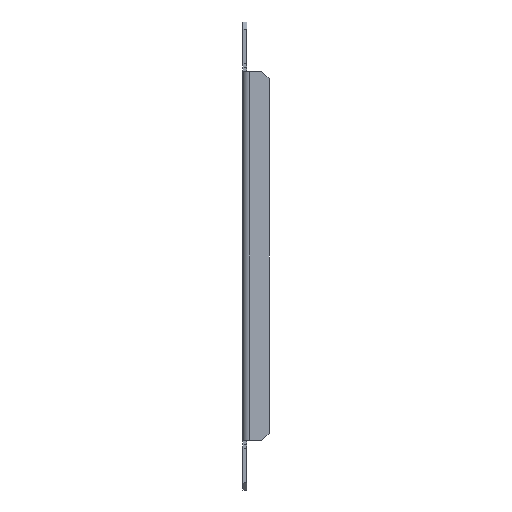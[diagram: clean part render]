
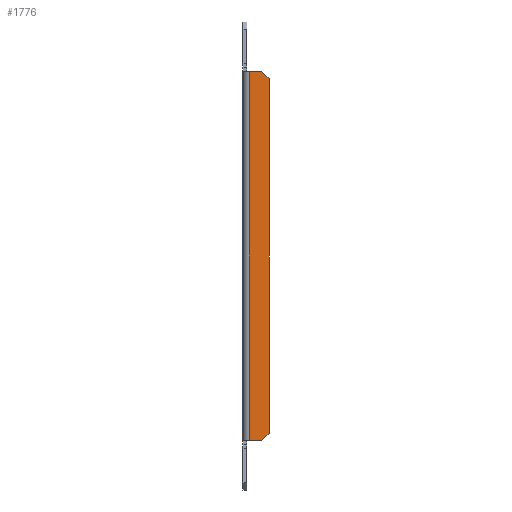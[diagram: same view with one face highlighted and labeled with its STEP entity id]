
A CAD part, left-side view. The second image highlights one B-rep face of the part: STEP entity #1776.
In plain terms, the highlighted planar face has unit normal (-1, 0, 0).
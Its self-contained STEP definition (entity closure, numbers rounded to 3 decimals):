
#7 = CARTESIAN_POINT ( 'NONE',  ( -12.5, -3.5, 102.5 ) ) ;
#111 = VECTOR ( 'NONE', #1554, 1000. ) ;
#148 = CARTESIAN_POINT ( 'NONE',  ( -12.5, -10.5, -102.5 ) ) ;
#162 = VECTOR ( 'NONE', #651, 1000. ) ;
#209 = VECTOR ( 'NONE', #228, 1000. ) ;
#228 = DIRECTION ( 'NONE',  ( 0., 0.707, 0.707 ) ) ;
#306 = VERTEX_POINT ( 'NONE', #148 ) ;
#350 = DIRECTION ( 'NONE',  ( 0., -1., 0. ) ) ;
#386 = EDGE_CURVE ( 'NONE', #1047, #2493, #2225, .T. ) ;
#414 = ORIENTED_EDGE ( 'NONE', *, *, #2266, .F. ) ;
#547 = VECTOR ( 'NONE', #1067, 1000. ) ;
#651 = DIRECTION ( 'NONE',  ( 0., -0.707, 0.707 ) ) ;
#659 = LINE ( 'NONE', #695, #1931 ) ;
#672 = CARTESIAN_POINT ( 'NONE',  ( -12.5, -10.5, 102.5 ) ) ;
#695 = CARTESIAN_POINT ( 'NONE',  ( -12.5, -14.5, -102.5 ) ) ;
#712 = PLANE ( 'NONE',  #1039 ) ;
#729 = CARTESIAN_POINT ( 'NONE',  ( -12.5, -3.5, 102.5 ) ) ;
#750 = ORIENTED_EDGE ( 'NONE', *, *, #1881, .F. ) ;
#796 = FACE_OUTER_BOUND ( 'NONE', #876, .T. ) ;
#824 = CARTESIAN_POINT ( 'NONE',  ( -12.5, -115., 2. ) ) ;
#843 = EDGE_CURVE ( 'NONE', #2131, #975, #2358, .T. ) ;
#847 = VECTOR ( 'NONE', #957, 1000. ) ;
#870 = ORIENTED_EDGE ( 'NONE', *, *, #843, .T. ) ;
#876 = EDGE_LOOP ( 'NONE', ( #750, #999, #414, #1756, #1095, #870 ) ) ;
#910 = CARTESIAN_POINT ( 'NONE',  ( -12.5, -14.5, -98.5 ) ) ;
#929 = DIRECTION ( 'NONE',  ( -1., 0., 0. ) ) ;
#957 = DIRECTION ( 'NONE',  ( 0., 1., 0. ) ) ;
#975 = VERTEX_POINT ( 'NONE', #1970 ) ;
#999 = ORIENTED_EDGE ( 'NONE', *, *, #2425, .T. ) ;
#1039 = AXIS2_PLACEMENT_3D ( 'NONE', #2163, #929, #350 ) ;
#1047 = VERTEX_POINT ( 'NONE', #2288 ) ;
#1067 = DIRECTION ( 'NONE',  ( 0., 0., -1. ) ) ;
#1095 = ORIENTED_EDGE ( 'NONE', *, *, #1985, .T. ) ;
#1143 = CARTESIAN_POINT ( 'NONE',  ( -12.5, -14.5, 102.5 ) ) ;
#1259 = CARTESIAN_POINT ( 'NONE',  ( -12.5, -14.5, 102.5 ) ) ;
#1270 = LINE ( 'NONE', #1143, #847 ) ;
#1304 = LINE ( 'NONE', #824, #162 ) ;
#1554 = DIRECTION ( 'NONE',  ( 0., 0., -1. ) ) ;
#1596 = LINE ( 'NONE', #1259, #547 ) ;
#1756 = ORIENTED_EDGE ( 'NONE', *, *, #386, .T. ) ;
#1776 = ADVANCED_FACE ( 'NONE', ( #796 ), #712, .T. ) ;
#1881 = EDGE_CURVE ( 'NONE', #306, #975, #659, .T. ) ;
#1888 = VERTEX_POINT ( 'NONE', #910 ) ;
#1931 = VECTOR ( 'NONE', #2347, 1000. ) ;
#1970 = CARTESIAN_POINT ( 'NONE',  ( -12.5, -3.5, -102.5 ) ) ;
#1985 = EDGE_CURVE ( 'NONE', #2493, #2131, #1270, .T. ) ;
#2131 = VERTEX_POINT ( 'NONE', #7 ) ;
#2163 = CARTESIAN_POINT ( 'NONE',  ( -12.5, -14.5, 102.5 ) ) ;
#2225 = LINE ( 'NONE', #2226, #209 ) ;
#2226 = CARTESIAN_POINT ( 'NONE',  ( -12.5, -12.5, 100.5 ) ) ;
#2266 = EDGE_CURVE ( 'NONE', #1047, #1888, #1596, .T. ) ;
#2288 = CARTESIAN_POINT ( 'NONE',  ( -12.5, -14.5, 98.5 ) ) ;
#2347 = DIRECTION ( 'NONE',  ( 0., 1., 0. ) ) ;
#2358 = LINE ( 'NONE', #729, #111 ) ;
#2425 = EDGE_CURVE ( 'NONE', #306, #1888, #1304, .T. ) ;
#2493 = VERTEX_POINT ( 'NONE', #672 ) ;
